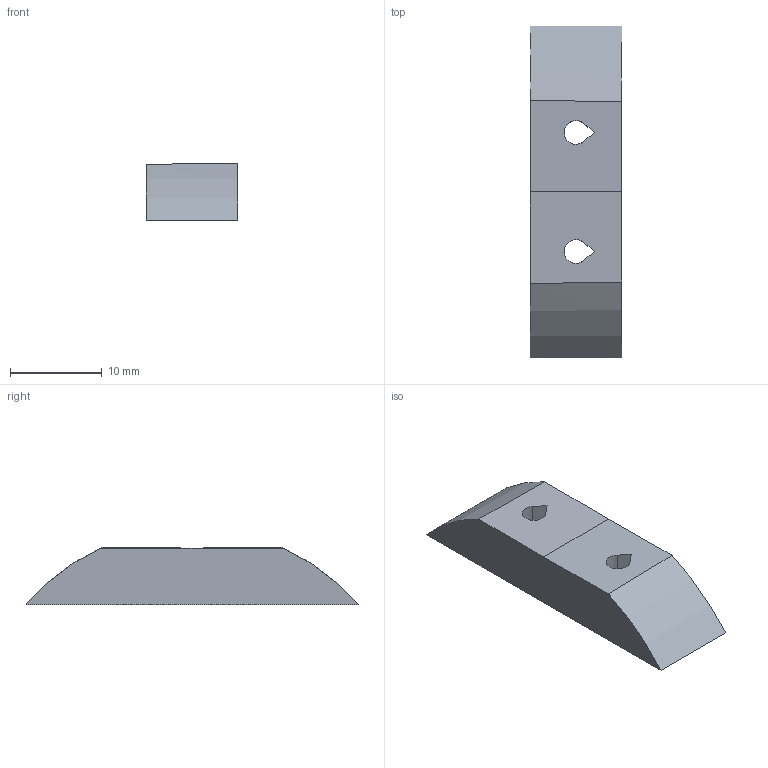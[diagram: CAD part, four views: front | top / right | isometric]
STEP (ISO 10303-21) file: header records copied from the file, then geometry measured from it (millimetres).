
FILE_DESCRIPTION(('SkyG Speed 120B - revision C7B-1 - 2026-10-09','NB2-wing-nut-bar-rear'),'2;1');
FILE_NAME('NB2-wing-nut-bar-rear_C7B-1','2026-10-09T15:13:01',('Author'),( 'Open CASCADE'),'Open CASCADE STEP processor 7.9','Open CASCADE 7.9' ,'Unknown');
FILE_SCHEMA(('AUTOMOTIVE_DESIGN { 1 0 10303 214 1 1 1 1 }'));
Length unit declared in the file: millimetre
Products named in the file (1): NB2-wing-nut-bar-rear C7B-1
Bounding box: 10 x 36.25 x 6.23 mm (x, y, z)
Volume: 1733.9 mm3; surface area: 1216.9 mm2
Topology: 1 solids, 1 shells, 13 faces, 33 edges, 22 vertices
Faces by surface type: plane 7, cylinder 4, bspline 2
Entity records: 2421 total; most frequent: CARTESIAN_POINT 1822, DIRECTION 79, ORIENTED_EDGE 66, PCURVE 66, DEFINITIONAL_REPRESENTATION 66, B_SPLINE_CURVE_WITH_KNOTS 50, LINE 37, VECTOR 37
